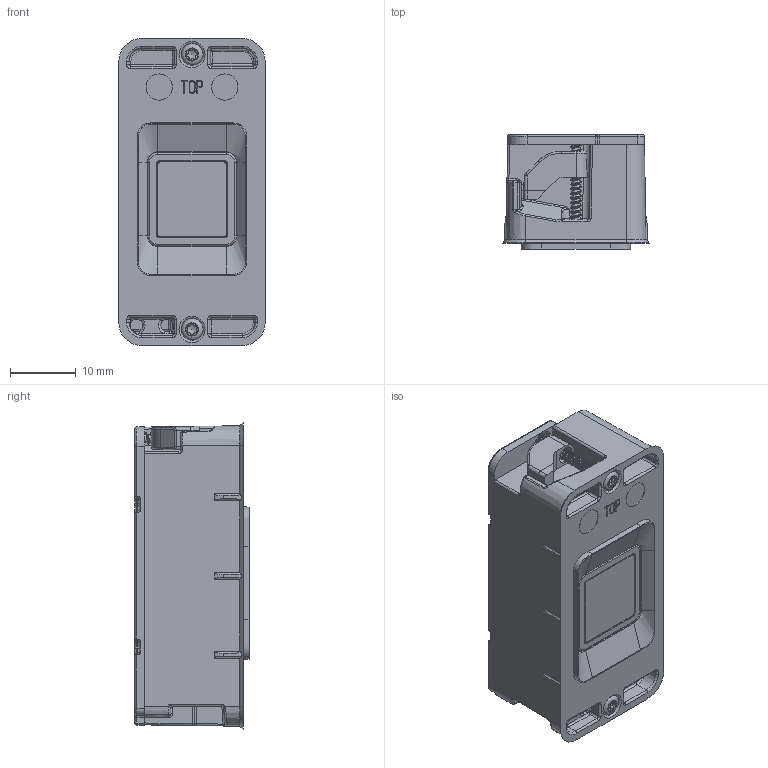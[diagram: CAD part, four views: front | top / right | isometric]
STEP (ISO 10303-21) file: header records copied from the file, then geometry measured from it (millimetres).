
FILE_DESCRIPTION(/* description */ ('Unknown'),/* implementation_level */ '2;1');
FILE_NAME(/* name */ '_0040_01_ekey dLine Assembly',/* time_stamp */ '2026-06-02T07:30:43+02:00',/* author */ ('Unknown'),/* organization */ ('Unknown'),/* preprocessor_version */ 'ST-DEVELOPER v20',/* originating_system */ 'Solid Edge',/* authorisation */ 'Unknown');
FILE_SCHEMA (('AUTOMOTIVE_DESIGN {1 0 10303 214 3 1 1}'));
Products named in the file (8): _0040_01_ekey dLine_restored; 0040_001_ekey dLine basic housing; 0040_010_ekey dLine mounting screw M1,8x15; dLine fingerprint Sensor; 0040_003_ekey dLine mounting clamp; 0040_020_ekey fingerprint sensor; 0040_002_ekey dLine basic housing cover REV2; dLine fingerprint Main
Assembly tree (9 placements, depth 2):
  _0040_01_ekey dLine_restored
    0040_001_ekey dLine basic housing
    0040_010_ekey dLine mounting screw M1,8x15  x2
    dLine fingerprint Sensor
    0040_003_ekey dLine mounting clamp  x2
    0040_020_ekey fingerprint sensor
    0040_002_ekey dLine basic housing cover REV2
    dLine fingerprint Main
Bounding box: 22.3 x 17.4 x 46.8 mm (x, y, z)
Volume: 6581.9 mm3; surface area: 14280.7 mm2
Topology: 14 solids, 14 shells, 5520 faces, 15235 edges, 9899 vertices
Faces by surface type: plane 4179, cylinder 794, bspline 273, sphere 124, torus 79, cone 71
Full cylindrical faces by diameter (mm): 0.55 x12, 1.366 x2, 1.837 x2, 3.3 x2, 4 x4
Entity records: 205479 total; most frequent: CARTESIAN_POINT 66737, ORIENTED_EDGE 29556, DIRECTION 26193, EDGE_CURVE 14778, LINE 12237, VECTOR 12237, VERTEX_POINT 9649, AXIS2_PLACEMENT_3D 6978
